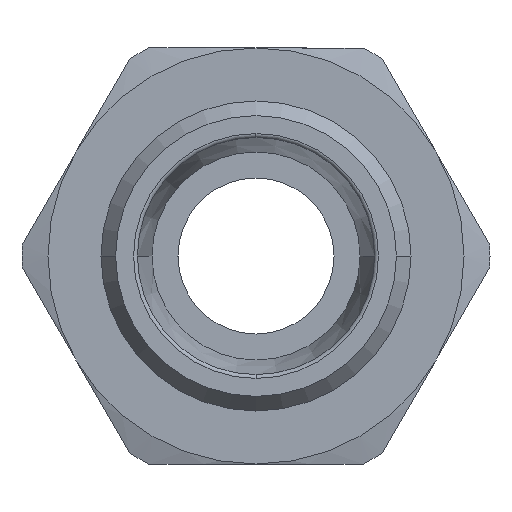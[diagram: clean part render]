
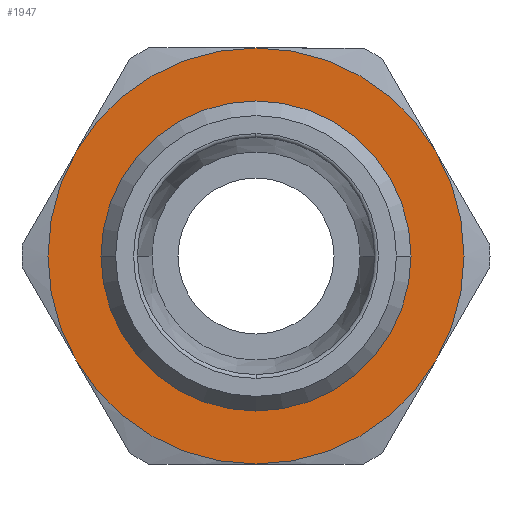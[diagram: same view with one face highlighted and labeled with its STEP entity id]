
A CAD part, left-side view. The second image highlights one B-rep face of the part: STEP entity #1947.
In plain terms, the highlighted planar face has unit normal (-1, 0, 0) as drawn and (0, 0, 1) by its records, which use the part's own axes.
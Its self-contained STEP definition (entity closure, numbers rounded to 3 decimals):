
#857=CARTESIAN_POINT('',(-11.8,0.,6.0));
#858=VERTEX_POINT('',#857);
#884=CARTESIAN_POINT('',(11.8,0.,6.0));
#885=VERTEX_POINT('',#884);
#893=CARTESIAN_POINT('',(0.,0.,6.0));
#894=DIRECTION('',(0.0,0.0,1.0));
#895=DIRECTION('',(-1.0,0.0,0.0));
#896=AXIS2_PLACEMENT_3D('',#893,#894,#895);
#897=CIRCLE('',#896,11.8);
#898=EDGE_CURVE('',#885,#858,#897,.T.);
#1827=CARTESIAN_POINT('',(0.,-11.8,6.));
#1828=VERTEX_POINT('',#1827);
#1829=CARTESIAN_POINT('',(0.,0.,6.0));
#1830=DIRECTION('',(0.0,0.0,1.0));
#1831=DIRECTION('',(-1.0,0.0,0.0));
#1832=AXIS2_PLACEMENT_3D('',#1829,#1830,#1831);
#1833=CIRCLE('',#1832,11.8);
#1834=EDGE_CURVE('',#858,#1828,#1833,.T.);
#1836=CARTESIAN_POINT('',(0.,0.,6.0));
#1837=DIRECTION('',(0.0,0.0,1.0));
#1838=DIRECTION('',(-1.0,0.0,0.0));
#1839=AXIS2_PLACEMENT_3D('',#1836,#1837,#1838);
#1840=CIRCLE('',#1839,11.8);
#1841=EDGE_CURVE('',#1828,#885,#1840,.T.);
#1881=CARTESIAN_POINT('',(0.0,0.,6.0));
#1882=DIRECTION('',(0.0,0.0,1.0));
#1883=DIRECTION('',(1.0,0.0,0.0));
#1884=AXIS2_PLACEMENT_3D('',#1881,#1882,#1883);
#1885=PLANE('',#1884);
#1886=CARTESIAN_POINT('',(8.,-13.856,6.));
#1887=VERTEX_POINT('',#1886);
#1888=CARTESIAN_POINT('',(16.0,0.0,6.));
#1889=VERTEX_POINT('',#1888);
#1890=CARTESIAN_POINT('',(0.,0.0,6.0));
#1891=DIRECTION('',(0.0,0.0,1.0));
#1892=DIRECTION('',(1.0,0.0,0.0));
#1893=AXIS2_PLACEMENT_3D('',#1890,#1891,#1892);
#1894=CIRCLE('',#1893,16.0);
#1895=EDGE_CURVE('',#1887,#1889,#1894,.T.);
#1896=ORIENTED_EDGE('',*,*,#1895,.T.);
#1897=CARTESIAN_POINT('',(8.,13.856,6.));
#1898=VERTEX_POINT('',#1897);
#1899=CARTESIAN_POINT('',(0.,0.0,6.0));
#1900=DIRECTION('',(0.0,0.0,1.0));
#1901=DIRECTION('',(1.0,0.0,0.0));
#1902=AXIS2_PLACEMENT_3D('',#1899,#1900,#1901);
#1903=CIRCLE('',#1902,16.0);
#1904=EDGE_CURVE('',#1889,#1898,#1903,.T.);
#1905=ORIENTED_EDGE('',*,*,#1904,.T.);
#1906=CARTESIAN_POINT('',(-8.,13.856,6.));
#1907=VERTEX_POINT('',#1906);
#1908=CARTESIAN_POINT('',(0.,0.0,6.0));
#1909=DIRECTION('',(0.0,0.0,1.0));
#1910=DIRECTION('',(1.0,0.0,0.0));
#1911=AXIS2_PLACEMENT_3D('',#1908,#1909,#1910);
#1912=CIRCLE('',#1911,16.0);
#1913=EDGE_CURVE('',#1898,#1907,#1912,.T.);
#1914=ORIENTED_EDGE('',*,*,#1913,.T.);
#1915=CARTESIAN_POINT('',(-16.0,0.,6.));
#1916=VERTEX_POINT('',#1915);
#1917=CARTESIAN_POINT('',(0.,0.0,6.0));
#1918=DIRECTION('',(0.0,0.0,1.0));
#1919=DIRECTION('',(1.0,0.0,0.0));
#1920=AXIS2_PLACEMENT_3D('',#1917,#1918,#1919);
#1921=CIRCLE('',#1920,16.0);
#1922=EDGE_CURVE('',#1907,#1916,#1921,.T.);
#1923=ORIENTED_EDGE('',*,*,#1922,.T.);
#1924=CARTESIAN_POINT('',(-8.0,-13.856,6.));
#1925=VERTEX_POINT('',#1924);
#1926=CARTESIAN_POINT('',(0.,0.0,6.0));
#1927=DIRECTION('',(0.0,0.0,1.0));
#1928=DIRECTION('',(1.0,0.0,0.0));
#1929=AXIS2_PLACEMENT_3D('',#1926,#1927,#1928);
#1930=CIRCLE('',#1929,16.0);
#1931=EDGE_CURVE('',#1916,#1925,#1930,.T.);
#1932=ORIENTED_EDGE('',*,*,#1931,.T.);
#1933=CARTESIAN_POINT('',(0.,0.0,6.0));
#1934=DIRECTION('',(0.0,0.0,1.0));
#1935=DIRECTION('',(1.0,0.0,0.0));
#1936=AXIS2_PLACEMENT_3D('',#1933,#1934,#1935);
#1937=CIRCLE('',#1936,16.0);
#1938=EDGE_CURVE('',#1925,#1887,#1937,.T.);
#1939=ORIENTED_EDGE('',*,*,#1938,.T.);
#1940=EDGE_LOOP('',(#1896,#1905,#1914,#1923,#1932,#1939));
#1941=FACE_OUTER_BOUND('',#1940,.T.);
#1942=ORIENTED_EDGE('',*,*,#1841,.F.);
#1943=ORIENTED_EDGE('',*,*,#1834,.F.);
#1944=ORIENTED_EDGE('',*,*,#898,.F.);
#1945=EDGE_LOOP('',(#1942,#1943,#1944));
#1946=FACE_BOUND('',#1945,.T.);
#1947=ADVANCED_FACE('',(#1941,#1946),#1885,.T.);
